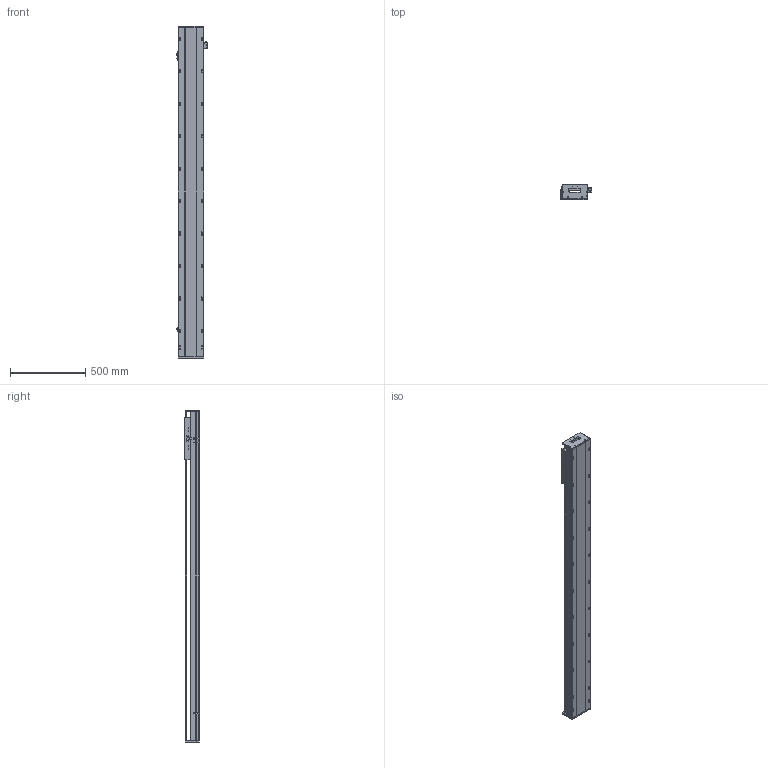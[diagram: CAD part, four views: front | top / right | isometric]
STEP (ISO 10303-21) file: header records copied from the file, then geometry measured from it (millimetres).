
FILE_DESCRIPTION (( 'STEP AP203' ), '1' );
FILE_NAME ('SKR17S-C2-S1828（简）.STEP', '2022-09-29T08:14:58', ( '' ), ( '' ), 'SwSTEP 2.0', 'SolidWorks 2018', '' );
FILE_SCHEMA (( 'CONFIG_CONTROL_DESIGN' ));
Length unit declared in the file: millimetre
Products named in the file (8): 感应片（SKR12S-14S-17S）; SKR17耜啣; SKR17S-C2-S1828（简）; SIKO棠掑; SKR17底座-C2-S1828（简); 棠掑假蚾輸; SKR17滑台-280L（简）; EE-SX672
Assembly tree (10 placements, depth 2):
  SKR17S-C2-S1828（简）
    SKR17底座-C2-S1828（简)
    SIKO棠掑
    EE-SX672  x3
    SKR17耜啣  x2
    棠掑假蚾輸
    SKR17滑台-280L（简）
    感应片（SKR12S-14S-17S）
Bounding box: 212.7 x 97 x 2208 mm (x, y, z)
Volume: 17283661.5 mm3; surface area: 2111001.7 mm2
Topology: 11 solids, 11 shells, 1336 faces, 3728 edges, 2392 vertices
Faces by surface type: cylinder 661, plane 537, cone 138
Entity records: 41507 total; most frequent: CARTESIAN_POINT 11151, ORIENTED_EDGE 6428, DIRECTION 5861, EDGE_CURVE 3214, VERTEX_POINT 2096, AXIS2_PLACEMENT_3D 2086, LINE 1689, VECTOR 1689
